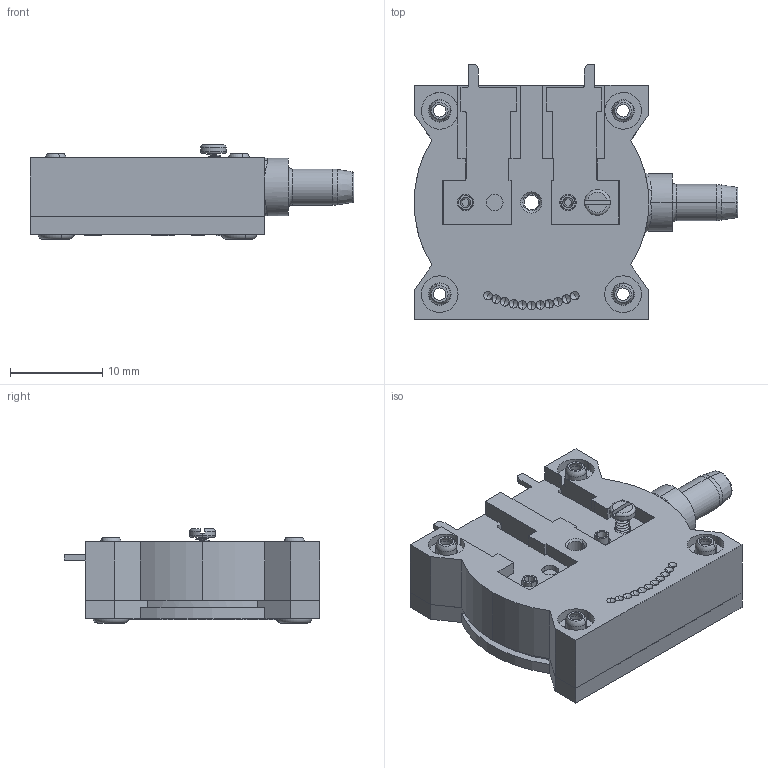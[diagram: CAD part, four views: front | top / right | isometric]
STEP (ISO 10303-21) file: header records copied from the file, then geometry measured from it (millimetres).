
FILE_DESCRIPTION (( 'STEP AP203' ), '1' );
FILE_NAME ('0501VO-GP-0003.STEP', '2016-02-19T14:16:34', ( '' ), ( '' ), 'SwSTEP 2.0', 'SolidWorks 2016', '' );
FILE_SCHEMA (( 'CONFIG_CONTROL_DESIGN' ));
Length unit declared in the file: inch
Products named in the file (1): 0501VO-GP-0003
Bounding box: 35.05 x 27.69 x 10.2 mm (x, y, z)
Surface area: 3937.2 mm2 (no closed solid volume)
Topology: 0 solids, 12 shells, 784 faces, 2452 edges, 1641 vertices
Faces by surface type: plane 445, bspline 195, cylinder 80, cone 30, torus 26, sphere 8
Entity records: 39653 total; most frequent: CARTESIAN_POINT 19297, ORIENTED_EDGE 4332, DIRECTION 3494, EDGE_CURVE 2422, VECTOR 1694, LINE 1694, VERTEX_POINT 1641, AXIS2_PLACEMENT_3D 900
